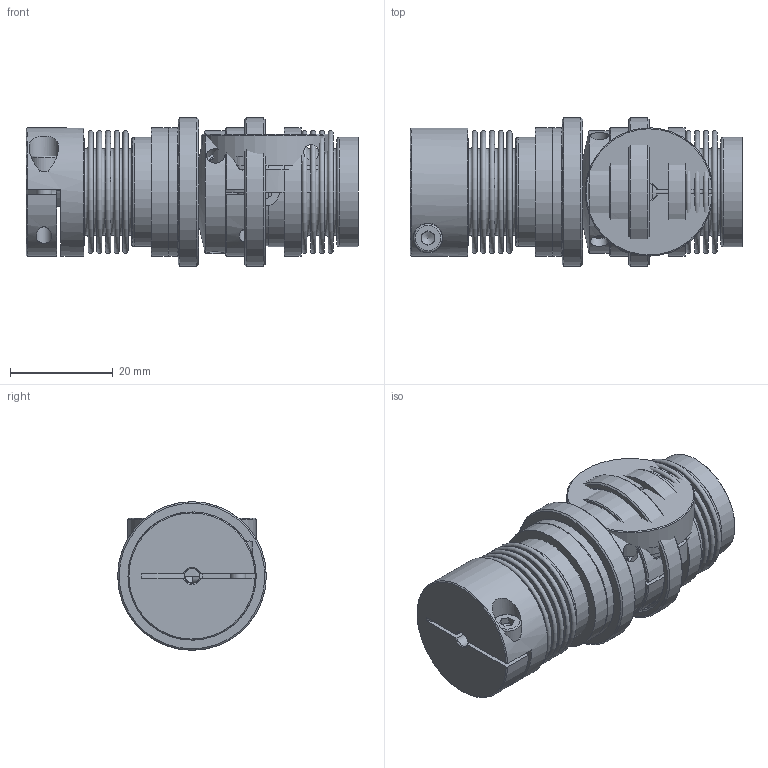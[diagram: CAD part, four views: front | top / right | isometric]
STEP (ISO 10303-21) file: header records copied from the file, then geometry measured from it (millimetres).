
FILE_DESCRIPTION( ( 'Unknown' ), '1' );
FILE_NAME( 'C:/Dokumente und Einstellungen/SKarpstein/Desktop/Korrigierte 3D Modelle/KBK-BKK-2-46.stp', 'Unknown', ( 'Unknown' ), ( 'Unknown' ), 'XStep 1.0', 'Unknown', ' ' );
FILE_SCHEMA( ( 'automotive_design' ) );
Length unit declared in the file: millimetre
Products named in the file (10): Assem1; Grundkörper L-K-2; Klemmnabe 2; Stellring 2; Druckring 2; Zylinderschraube DIN 912_0; Flansch BK2; KN20_Standard_5; Socket Head Cap Screw_DIN_DIN 912 M3 x 10 --- 10N_3; BK20_Standard_1
Bounding box: 64.76 x 29 x 29 mm (x, y, z)
Volume: 31390.2 mm3; surface area: 36684.7 mm2
Topology: 18 solids, 18 shells, 374 faces, 770 edges, 502 vertices
Faces by surface type: plane 170, cylinder 92, torus 58, cone 54
Full cylindrical faces by diameter (mm): 2.013 x6, 2.459 x2, 3 x10, 3.2 x4, 3.5 x6, 5.5 x4, 9.6 x2, 10 x4, 12 x2, 13 x6, 17 x2, 19 x2, 21 x6, 21.3 x4, 24 x2, 25 x6, 26 x2, 29 x2
Entity records: 5150 total; most frequent: CARTESIAN_POINT 1222, DIRECTION 803, ORIENTED_EDGE 550, AXIS2_PLACEMENT_3D 363, EDGE_LOOP 334, EDGE_CURVE 275, FACE_OUTER_BOUND 251, VERTEX_POINT 228
